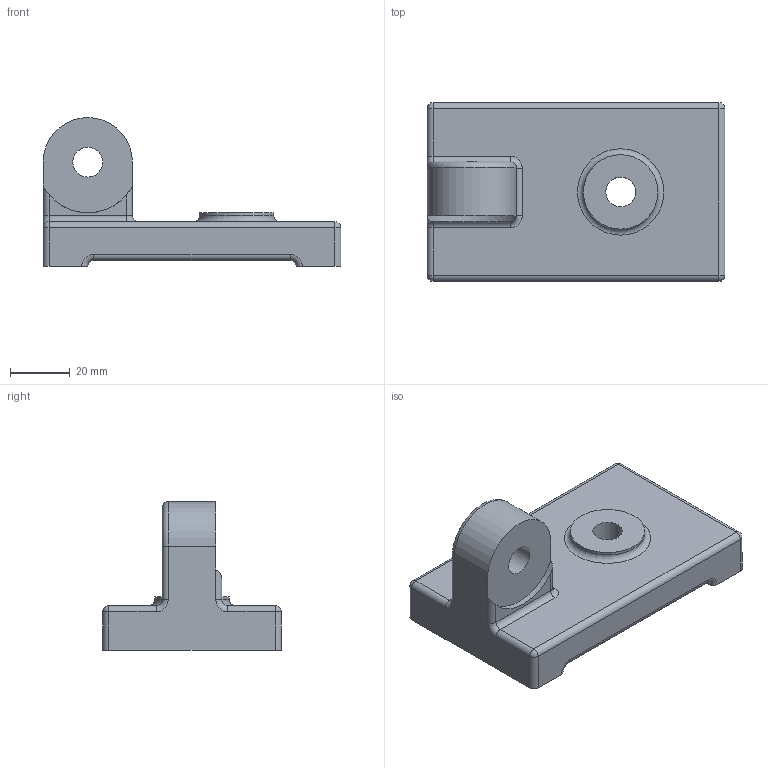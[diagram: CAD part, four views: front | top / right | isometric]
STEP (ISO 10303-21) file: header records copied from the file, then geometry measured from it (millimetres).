
FILE_DESCRIPTION(('STEP AP242'),'1');
FILE_NAME('Table - fini.stp','2018-09-05T08:11:03',(' '),(' '),'Spatial InterOp 3D',' ',' ');
FILE_SCHEMA(('AP242_MANAGED_MODEL_BASED_3D_ENGINEERING_MIM_LF {1 0 10303 442 1 1 4}'));
Length unit declared in the file: millimetre
Products named in the file (1): P05F
Bounding box: 100 x 60 x 50 mm (x, y, z)
Volume: 97617.7 mm3; surface area: 19979.4 mm2
Topology: 1 solids, 1 shells, 52 faces, 124 edges, 71 vertices
Faces by surface type: cylinder 25, plane 13, torus 10, sphere 4
Full cylindrical faces by diameter (mm): 10 x2, 25 x1
Entity records: 1932 total; most frequent: DIRECTION 280, CARTESIAN_POINT 264, ORIENTED_EDGE 228, AXIS2_PLACEMENT_3D 115, EDGE_CURVE 114, VERTEX_POINT 69, CIRCLE 62, EDGE_LOOP 61
